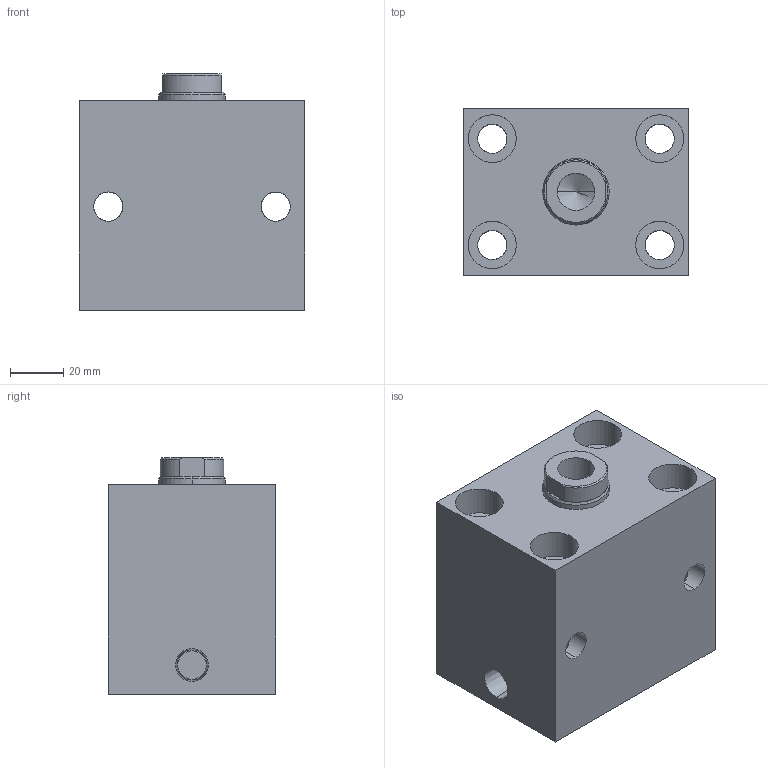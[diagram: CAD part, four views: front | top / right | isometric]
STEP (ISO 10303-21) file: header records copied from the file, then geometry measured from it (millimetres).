
FILE_DESCRIPTION (( 'STEP AP203' ), '1' );
FILE_NAME ('HBC-40S-10N装配体.STEP', '2019-11-29T08:58:02', ( '微软用户' ), ( '微软中国' ), 'SwSTEP 2.0', 'SolidWorks 2012', '' );
FILE_SCHEMA (( 'CONFIG_CONTROL_DESIGN' ));
Length unit declared in the file: millimetre
Products named in the file (3): HBC-40S-10N掛极; HBC-40S-10N蚾饜极; HBC-40S-10N活塞杆
Assembly tree (2 placements, depth 2):
  HBC-40S-10N蚾饜极
    HBC-40S-10N掛极
    HBC-40S-10N活塞杆
Bounding box: 85 x 63 x 89 mm (x, y, z)
Volume: 376445.8 mm3; surface area: 54539.7 mm2
Topology: 2 solids, 2 shells, 72 faces, 176 edges, 107 vertices
Faces by surface type: cylinder 46, plane 18, cone 8
Entity records: 2439 total; most frequent: CARTESIAN_POINT 466, DIRECTION 360, ORIENTED_EDGE 348, EDGE_CURVE 174, AXIS2_PLACEMENT_3D 145, VERTEX_POINT 107, EDGE_LOOP 93, FACE_OUTER_BOUND 72
